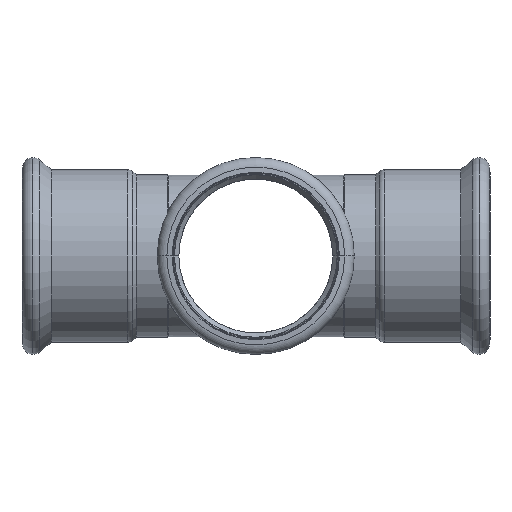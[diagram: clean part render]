
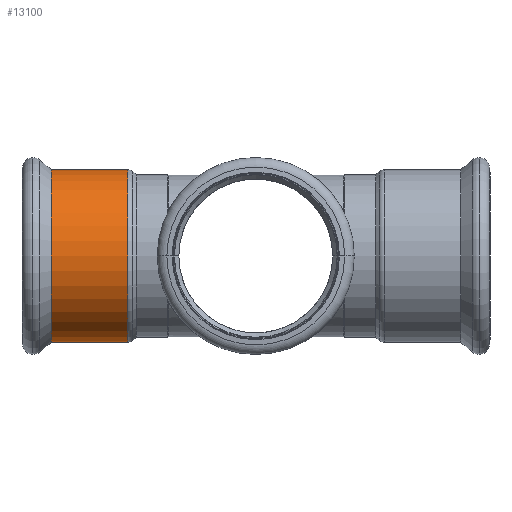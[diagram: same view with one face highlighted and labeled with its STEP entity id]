
A CAD part, front view. The second image highlights one B-rep face of the part: STEP entity #13100.
In plain terms, the highlighted cylindrical face has radius 28.65 mm (diameter 57.3 mm), a partial arc.
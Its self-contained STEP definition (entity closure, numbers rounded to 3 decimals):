
#12690=CARTESIAN_POINT('',(-32.574,-20.023,
0.));
#12700=DIRECTION('',(1.,0.,0.));
#12710=DIRECTION('',(0.,0.,-1.));
#12720=AXIS2_PLACEMENT_3D('',#12690,#12700,#12710);
#12730=CYLINDRICAL_SURFACE('',#12720,28.65);
#12740=CARTESIAN_POINT('',(-32.574,-20.023,
28.65));
#12750=DIRECTION('',(1.,0.,0.));
#12760=VECTOR('',#12750,1.);
#12770=LINE('',#12740,#12760);
#12780=CARTESIAN_POINT('',(-45.249,-20.023,
28.65));
#12790=VERTEX_POINT('',#12780);
#12800=CARTESIAN_POINT('',(-19.899,-20.023,
28.65));
#12810=VERTEX_POINT('',#12800);
#12820=EDGE_CURVE('',#12790,#12810,#12770,.T.);
#12830=ORIENTED_EDGE('',*,*,#12820,.F.);
#12840=CARTESIAN_POINT('',(-19.899,-20.023,
0.));
#12850=DIRECTION('',(1.,0.,0.));
#12860=DIRECTION('',(0.,0.,1.));
#12870=AXIS2_PLACEMENT_3D('',#12840,#12850,#12860);
#12880=CIRCLE('',#12870,28.65);
#12890=CARTESIAN_POINT('',(-19.899,-20.023,
-28.65));
#12900=VERTEX_POINT('',#12890);
#12910=EDGE_CURVE('',#12810,#12900,#12880,.T.);
#12920=ORIENTED_EDGE('',*,*,#12910,.F.);
#12930=CARTESIAN_POINT('',(-32.574,-20.023,
-28.65));
#12940=DIRECTION('',(1.,0.,0.));
#12950=VECTOR('',#12940,1.);
#12960=LINE('',#12930,#12950);
#12970=CARTESIAN_POINT('',(-45.249,-20.023,
-28.65));
#12980=VERTEX_POINT('',#12970);
#12990=EDGE_CURVE('',#12980,#12900,#12960,.T.);
#13000=ORIENTED_EDGE('',*,*,#12990,.T.);
#13010=CARTESIAN_POINT('',(-45.249,-20.023,
0.));
#13020=DIRECTION('',(-1.,0.,0.));
#13030=DIRECTION('',(0.,0.,1.));
#13040=AXIS2_PLACEMENT_3D('',#13010,#13020,#13030);
#13050=CIRCLE('',#13040,28.65);
#13060=EDGE_CURVE('',#12980,#12790,#13050,.T.);
#13070=ORIENTED_EDGE('',*,*,#13060,.F.);
#13080=EDGE_LOOP('',(#13070,#13000,#12920,#12830));
#13090=FACE_OUTER_BOUND('',#13080,.T.);
#13100=ADVANCED_FACE('',(#13090),#12730,.T.);
